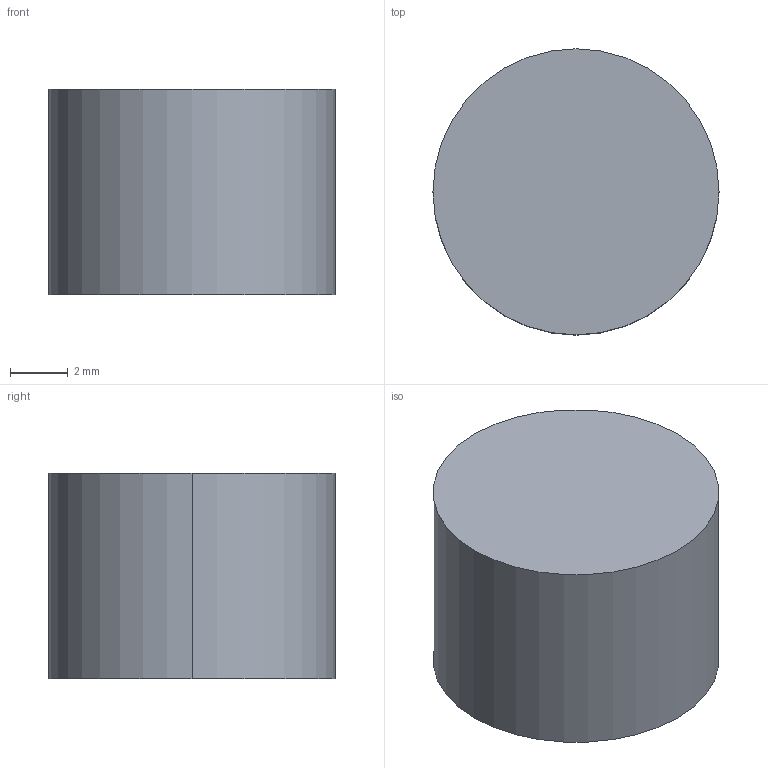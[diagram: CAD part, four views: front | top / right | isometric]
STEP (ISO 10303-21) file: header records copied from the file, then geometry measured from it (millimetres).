
FILE_DESCRIPTION (( 'STEP AP203' ), '1' );
FILE_NAME ('REF_receiver_U1.step', '2026-10-06T17:15:56', ( '' ), ( '' ), 'SwSTEP 2.0', 'SolidWorks 2025', '' );
FILE_SCHEMA (( 'CONFIG_CONTROL_DESIGN' ));
Length unit declared in the file: millimetre
Products named in the file (1): REF_receiver_U1
Bounding box: 9.9 x 9.9 x 7.1 mm (x, y, z)
Volume: 546.5 mm3; surface area: 374.8 mm2
Topology: 1 solids, 1 shells, 4 faces, 6 edges, 4 vertices
Faces by surface type: cylinder 2, plane 2
Entity records: 171 total; most frequent: DIRECTION 20, CARTESIAN_POINT 15, ORIENTED_EDGE 12, AXIS2_PLACEMENT_3D 9, PERSON_AND_ORGANIZATION 8, EDGE_CURVE 6, CC_DESIGN_PERSON_AND_ORGANIZATION_ASSIGNMENT 5, CALENDAR_DATE 5
